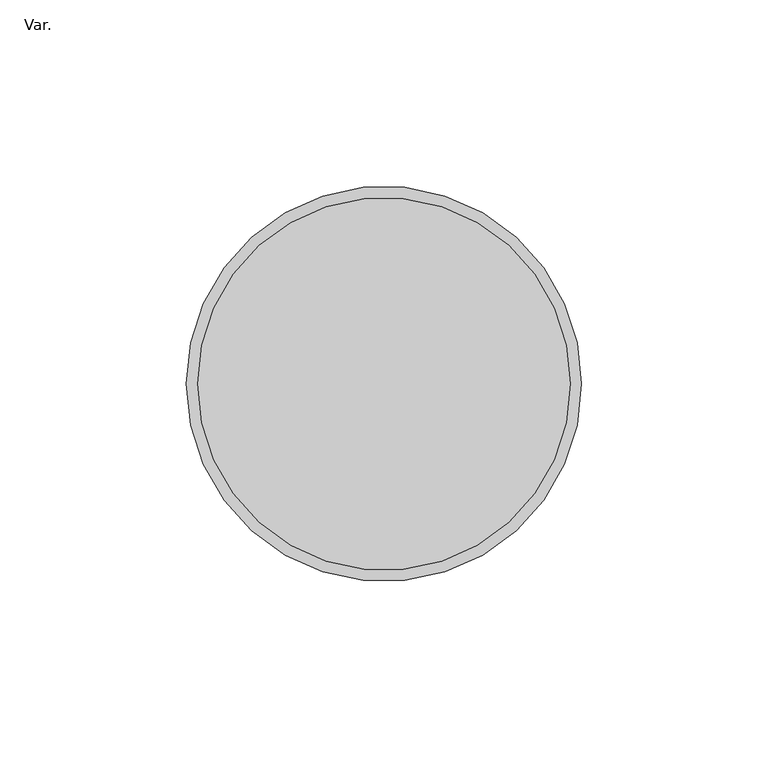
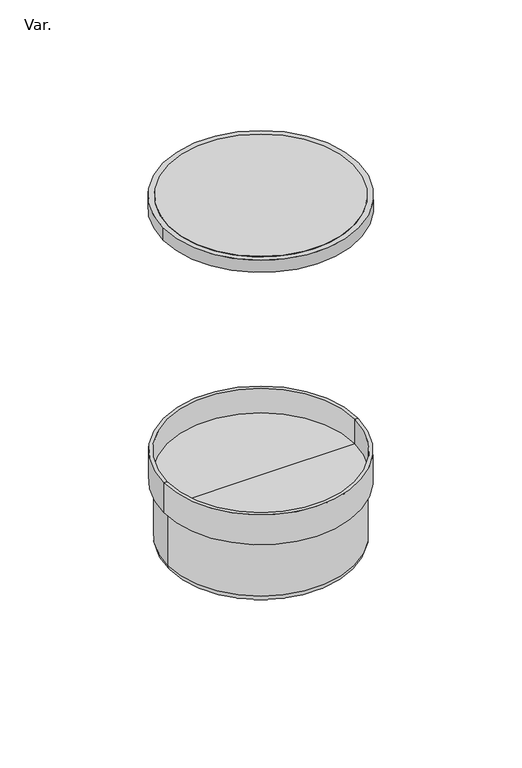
"""IFC4 building model written with IfcOpenShell, lengths in millimetres: pipe fitting geometry, AmancoWavin_ConexõesdeTubos_EsgotoRaloSecoCilindricocomProlongamento : Var.."""

from ifc_helpers import new_model, si_unit, point, frame, origin, origin_with_axes, origin_2d, place, context, project, spatial, polyline, circle_curve, ellipse_curve, trimmed, segment, composite_curve, outline, extrude, source, transform, mapped, element, save
from ifc_brep_helpers import plane_surface, cylinder_surface, revolved_surface, advanced_brep


def var_463eae7b(model_context):
    return source(origin(), model_context, "Body", "SolidModel", [
        extrude(outline(composite_curve([segment(trimmed(circle_curve(origin_2d(), 50.0), [point((-50.0, 0.0))], [point((50.0, 0.0))], False, "CARTESIAN"), True, "CONTINUOUS"), segment(trimmed(circle_curve(origin_2d(), 50.0), [point((50.0, 0.0))], [point((-50.0, 0.0))], False, "CARTESIAN"), True, "CONTINUOUS")], self_intersect=False)), frame((0.0, 0.0, 191.0), z_axis=(0.0, 0.0, 1.0), x_axis=(1.0, 0.0, 0.0)), (0.0, 0.0, 1.0), 7.1),
        extrude(outline(composite_curve([segment(trimmed(circle_curve(origin_2d(), 53.0), [point((-53.0, 0.0))], [point((53.0, 0.0))], False, "CARTESIAN"), True, "CONTINUOUS"), segment(trimmed(circle_curve(origin_2d(), 53.0), [point((53.0, 0.0))], [point((-53.0, 0.0))], False, "CARTESIAN"), True, "CONTINUOUS")], self_intersect=False)), frame((0.0, 0.0, 191.0), z_axis=(0.0, 0.0, 1.0), x_axis=(1.0, 0.0, 0.0)), (0.0, 0.0, 1.0), 7.0),
        advanced_brep(
        [(52.7, 0.0, 35.0), (-52.7, 0.0, 35.0), (-52.7, 0.0, 52.0), (52.7, 0.0, 52.0), (50.5, 0.0, 4.0), (-50.5, 0.0, 4.0), (-50.5, 0.0, 33.7298294), (50.5, 0.0, 33.7298294), (46.5, 0.0, 0.0), (-46.5, 0.0, 0.0), (20.0, 0.0, 0.0), (-20.0, 0.0, 0.0), (0.0, 0.0, 0.0), (-18.2, 0.0, 0.0), (18.2, 0.0, 0.0), (20.0, 0.0, -16.2), (-20.0, 0.0, -16.2), (18.2, 0.0, -18.0), (-18.2, 0.0, -18.0), (50.8, 0.0, 38.0), (-50.8, 0.0, 38.0), (0.0, 0.0, 38.0), (50.8, 0.0, 52.0), (-50.8, 0.0, 52.0)],
        [
            (0, 1, circle_curve(frame((0.0, 0.0, 35.0), z_axis=(0.0, 0.0, 1.0), x_axis=(-1.0, 0.0, 0.0)), 52.7)),
            (1, 2),
            (2, 3, circle_curve(frame((0.0, 0.0, 52.0), z_axis=(0.0, 0.0, -1.0), x_axis=(-1.0, 0.0, 0.0)), 52.7)),
            (3, 0),
            (1, 0, circle_curve(frame((0.0, 0.0, 35.0), z_axis=(0.0, 0.0, 1.0), x_axis=(-1.0, 0.0, 0.0)), 52.7)),
            (3, 2, circle_curve(frame((0.0, 0.0, 52.0), z_axis=(0.0, 0.0, -1.0), x_axis=(-1.0, 0.0, 0.0)), 52.7)),
            (4, 5, circle_curve(frame((0.0, 0.0, 4.0), z_axis=(0.0, 0.0, 1.0), x_axis=(-1.0, 0.0, 0.0)), 50.5)),
            (5, 6),
            (6, 7, circle_curve(frame((0.0, 0.0, 33.7298294), z_axis=(0.0, 0.0, -1.0), x_axis=(-1.0, 0.0, 0.0)), 50.5)),
            (7, 4),
            (5, 4, circle_curve(frame((0.0, 0.0, 4.0), z_axis=(0.0, 0.0, 1.0), x_axis=(-1.0, 0.0, 0.0)), 50.5)),
            (7, 6, circle_curve(frame((0.0, 0.0, 33.7298294), z_axis=(0.0, 0.0, -1.0), x_axis=(-1.0, 0.0, 0.0)), 50.5)),
            (4, 8, circle_curve(frame((46.5, 0.0, 4.0), z_axis=(0.0, 1.0, 0.0), x_axis=(-1.0, 0.0, 0.0)), 4.0)),
            (8, 9, circle_curve(frame((0.0, 0.0, 0.0), z_axis=(0.0, 0.0, 1.0), x_axis=(-1.0, 0.0, 0.0)), 46.5)),
            (9, 5, circle_curve(frame((-46.5, 0.0, 4.0), z_axis=(0.0, 1.0, 0.0), x_axis=(1.0, 0.0, 0.0)), 4.0)),
            (9, 8, circle_curve(frame((0.0, 0.0, 0.0), z_axis=(0.0, 0.0, 1.0), x_axis=(-1.0, 0.0, 0.0)), 46.5)),
            (8, 10),
            (10, 11, circle_curve(origin_with_axes(), 20.0)),
            (11, 9),
            (12, 13),
            (13, 14, circle_curve(frame((0.0, 0.0, 0.0), z_axis=(0.0, 0.0, -1.0), x_axis=(1.0, 0.0, 0.0)), 18.2)),
            (14, 12),
            (11, 10, circle_curve(origin_with_axes(), 20.0)),
            (14, 13, circle_curve(frame((0.0, 0.0, 0.0), z_axis=(0.0, 0.0, -1.0), x_axis=(1.0, 0.0, 0.0)), 18.2)),
            (0, 7),
            (6, 1),
            (10, 15),
            (15, 16, circle_curve(frame((0.0, 0.0, -16.2), z_axis=(0.0, 0.0, 1.0), x_axis=(1.0, 0.0, 0.0)), 20.0)),
            (16, 11),
            (16, 15, circle_curve(frame((0.0, 0.0, -16.2), z_axis=(0.0, 0.0, 1.0), x_axis=(1.0, 0.0, 0.0)), 20.0)),
            (15, 17),
            (17, 18, circle_curve(frame((0.0, 0.0, -18.0), z_axis=(0.0, 0.0, 1.0), x_axis=(1.0, 0.0, 0.0)), 18.2)),
            (18, 16),
            (18, 17, circle_curve(frame((0.0, 0.0, -18.0), z_axis=(0.0, 0.0, 1.0), x_axis=(1.0, 0.0, 0.0)), 18.2)),
            (17, 14),
            (13, 18),
            (19, 20, circle_curve(frame((0.0, 0.0, 38.0), z_axis=(0.0, 0.0, 1.0), x_axis=(-1.0, 0.0, 0.0)), 50.8)),
            (20, 21),
            (21, 19),
            (20, 19, circle_curve(frame((0.0, 0.0, 38.0), z_axis=(0.0, 0.0, 1.0), x_axis=(-1.0, 0.0, 0.0)), 50.8)),
            (19, 22),
            (22, 23, circle_curve(frame((0.0, 0.0, 52.0), z_axis=(0.0, 0.0, 1.0), x_axis=(-1.0, 0.0, 0.0)), 50.8)),
            (23, 20),
            (23, 22, circle_curve(frame((0.0, 0.0, 52.0), z_axis=(0.0, 0.0, 1.0), x_axis=(-1.0, 0.0, 0.0)), 50.8)),
            (2, 23),
            (22, 3),
        ],
        [
            cylinder_surface(frame((0.0, 0.0, 2214.3150031), z_axis=(0.0, 0.0, -1.0), x_axis=(-1.0, 0.0, 0.0)), 52.7),
            cylinder_surface(frame((0.0, 0.0, 2214.3150031), z_axis=(0.0, 0.0, -1.0), x_axis=(-1.0, 0.0, 0.0)), 50.5),
            revolved_surface(trimmed(ellipse_curve(frame((-46.5, 0.0, 4.0), z_axis=(0.0, -1.0, 0.0), x_axis=(1.0, 0.0, 0.0)), 4.0, 4.0), [point((-50.5, 0.0, 4.0))], [point((-46.5, 0.0, 0.0))], True, "CARTESIAN"), (0.0, 0.0, 2214.3150031), (0.0, 0.0, -1.0)),
            plane_surface(frame((0.0, 0.0, 0.0), z_axis=(0.0, 0.0, -1.0), x_axis=(-1.0, 0.0, 0.0))),
            revolved_surface(polyline([(-52.7, 0.0, 35.0), (-50.5, 0.0, 33.7298294)]), (0.0, 0.0, 2214.3150031), (0.0, 0.0, -1.0)),
            cylinder_surface(origin_with_axes(), 20.0),
            revolved_surface(polyline([(18.2, 0.0, -18.0), (20.0, 0.0, -16.2)]), (0.0, 0.0, 0.0), (0.0, 0.0, 1.0)),
            revolved_surface(polyline([(18.2, 0.0, 0.0), (18.2, 0.0, -18.0)]), (0.0, 0.0, 0.0), (0.0, 0.0, 1.0)),
            plane_surface(frame((0.0, 0.0, 38.0), z_axis=(0.0, 0.0, 1.0), x_axis=(-1.0, 0.0, 0.0))),
            revolved_surface(polyline([(-50.8, 0.0, 38.0), (-50.8, 0.0, 52.0)]), (0.0, 0.0, 2214.3150031), (0.0, 0.0, -1.0)),
            plane_surface(frame((0.0, 0.0, 52.0), z_axis=(0.0, 0.0, 1.0), x_axis=(-1.0, 0.0, 0.0))),
        ],
        [
            (0, [[1, 2, 3, 4]]),
            (0, [[-2, 5, -4, 6]]),
            (1, [[7, 8, 9, 10]]),
            (1, [[-8, 11, -10, 12]]),
            (2, [[-7, 13, 14, 15]]),
            (2, [[-11, -15, 16, -13]]),
            (3, [[-14, 17, 18, 19]]),
            (3, [[20, 21, 22]]),
            (3, [[-16, -19, 23, -17]]),
            (3, [[-20, -22, 24]]),
            (4, [[-1, 25, -9, 26]]),
            (4, [[-5, -26, -12, -25]]),
            (5, [[27, 28, 29, -18]]),
            (5, [[-27, -23, -29, 30]]),
            (6, [[-28, 31, 32, 33]]),
            (6, [[-30, -33, 34, -31]]),
            (7, [[-32, 35, -21, 36]]),
            (7, [[-34, -36, -24, -35]]),
            (8, [[37, 38, 39]]),
            (8, [[-38, 40, -39]]),
            (9, [[-37, 41, 42, 43]]),
            (9, [[-40, -43, 44, -41]]),
            (10, [[-3, 45, -42, 46]]),
            (10, [[-6, -46, -44, -45]]),
        ],
    ),
    ])


if __name__ == "__main__":
    model = new_model("IFC4")
    model_context = context("Model", 3, world=origin())
    ifc_project = project(units=[si_unit("LENGTHUNIT", "METRE", prefix="MILLI")], contexts=[model_context])
    site = spatial("IfcSite", under=ifc_project)
    building = spatial("IfcBuilding", under=site)
    placement = place(None, origin())
    var_shape = var_463eae7b(model_context)
    element("IfcPipeFitting", 1, ObjectType="AmancoWavin_ConexõesdeTubos_EsgotoRaloSecoCilindricocomProlongamento : Var.", at=placement, inside=building, context=model_context, shape_type="MappedRepresentation", body=[
        mapped(var_shape, transform((0.0, 0.0, 0.0), x_axis=(1.0, 0.0, 0.0), y_axis=(0.0, 1.0, 0.0), z_axis=(0.0, 0.0, 1.0))),
    ])
    save(model, "model.ifc")
